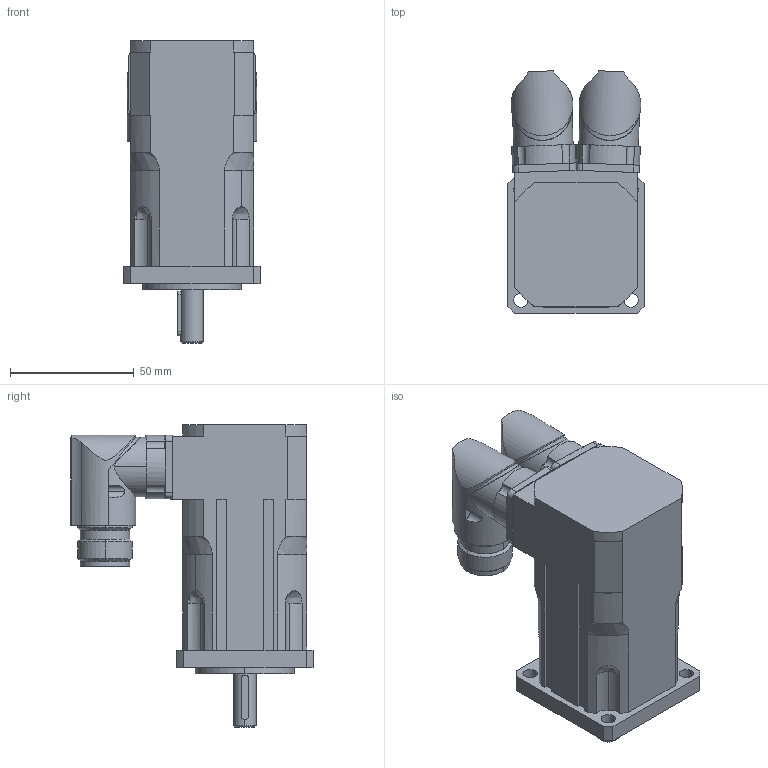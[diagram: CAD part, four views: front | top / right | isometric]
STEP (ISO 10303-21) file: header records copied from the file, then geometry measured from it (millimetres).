
FILE_DESCRIPTION(('STEP AP203'),'2;1');
FILE_NAME('MT2-0020.stp','2006-08-28T19:55:37',(''),(''),'2005.2.102','THINKDESIGN','');
FILE_SCHEMA(('CONFIG_CONTROL_DESIGN'));
Length unit declared in the file: millimetre
Bounding box: 55 x 97.7 x 122 mm (x, y, z)
Volume: 290307.8 mm3; surface area: 47066.6 mm2
Topology: 3 solids, 3 shells, 264 faces, 698 edges, 450 vertices
Faces by surface type: cylinder 118, plane 102, bspline 44
Entity records: 9929 total; most frequent: CARTESIAN_POINT 3292, ORIENTED_EDGE 1396, DIRECTION 1372, EDGE_CURVE 698, AXIS2_PLACEMENT_3D 524, VERTEX_POINT 450, VECTOR 324, LINE 324
